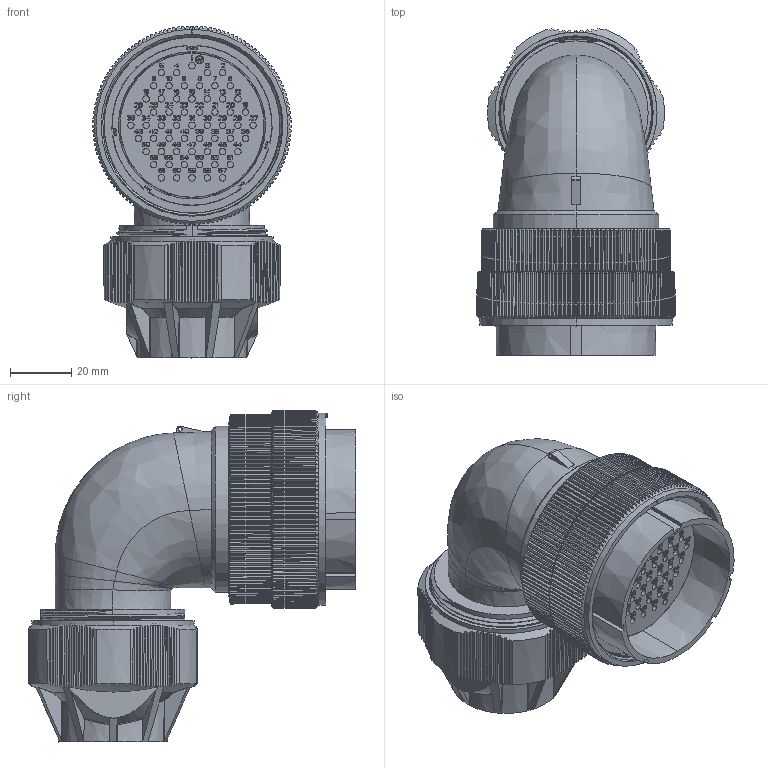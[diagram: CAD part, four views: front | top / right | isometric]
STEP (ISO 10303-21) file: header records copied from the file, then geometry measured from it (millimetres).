
FILE_DESCRIPTION((''),'2;1');
FILE_NAME('WF55J61TU3','2020-02-28T',('Administrator'),(''),'CREO PARAMETRIC BY PTC INC, 2016130','CREO PARAMETRIC BY PTC INC, 2016130','');
FILE_SCHEMA(('CONFIG_CONTROL_DESIGN'));
Length unit declared in the file: millimetre
Products named in the file (1): WF55J61TU3
Bounding box: 64.93 x 107.01 x 108.57 mm (x, y, z)
Volume: 197758.5 mm3; surface area: 60110.5 mm2
Topology: 2 solids, 7 shells, 6294 faces, 18443 edges, 12396 vertices
Faces by surface type: plane 4842, cone 975, cylinder 226, torus 143, bspline 108
Entity records: 221588 total; most frequent: CARTESIAN_POINT 56443, ORIENTED_EDGE 36874, DIRECTION 30806, EDGE_CURVE 18443, VECTOR 14120, LINE 14120, VERTEX_POINT 12396, AXIS2_PLACEMENT_3D 8343
